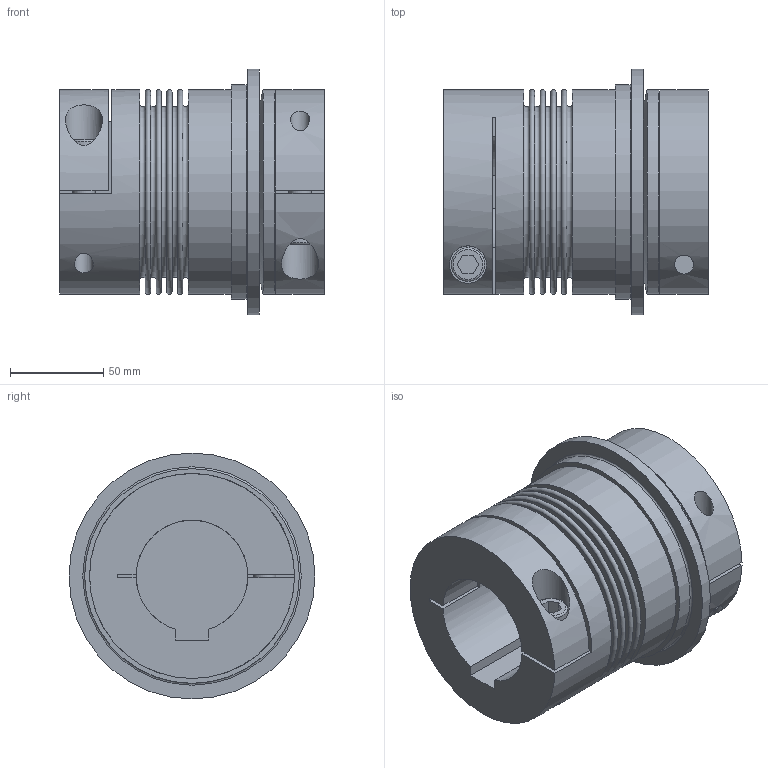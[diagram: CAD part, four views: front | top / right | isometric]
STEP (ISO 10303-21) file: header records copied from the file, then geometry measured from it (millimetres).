
FILE_DESCRIPTION(/* description */ ('STEP AP214'),/* implementation_level */ '2;1');
FILE_NAME(/* name */ 'C:\Diequa Files\DieQua Coupling\TB2\STP\TB2.300.142.F.#.#.stp',/* time_stamp */ '2019-04-26T10:40:24-05:00',/* author */ ('DiequaCAD'),/* organization */ (''),/* preprocessor_version */ 'ST-DEVELOPER v18',/* originating_system */ 'Autodesk Inventor 2020',/* authorisation */ ' ');
FILE_SCHEMA (('AUTOMOTIVE_DESIGN { 1 0 10303 214 3 1 1 }'));
Length unit declared in the file: millimetre
Products named in the file (1): TB2.300.142.F.#.#
Bounding box: 142 x 132 x 132 mm (x, y, z)
Volume: 1066012.7 mm3; surface area: 146456.3 mm2
Topology: 1 solids, 1 shells, 90 faces, 212 edges, 148 vertices
Faces by surface type: plane 57, cylinder 20, torus 12, cone 1
Full cylindrical faces by diameter (mm): 10.2 x2, 12 x2, 13.5 x2, 18 x2, 20 x2, 90.8 x1, 110 x3, 115.2 x1, 132 x1
Entity records: 2857 total; most frequent: CARTESIAN_POINT 603, DIRECTION 491, ORIENTED_EDGE 424, EDGE_CURVE 212, AXIS2_PLACEMENT_3D 194, VERTEX_POINT 148, EDGE_LOOP 118, LINE 103
